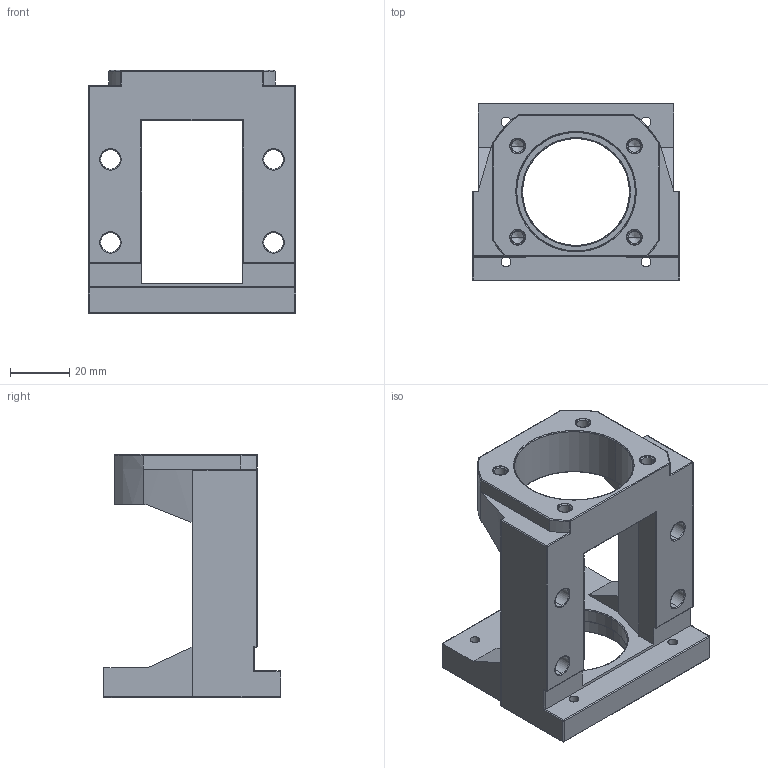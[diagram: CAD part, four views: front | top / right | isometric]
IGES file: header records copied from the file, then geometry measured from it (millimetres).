
Start section: SolidWorks IGES file using analytic representation for surfaces
Bounding box: 70 x 60 x 82 mm (x, y, z)
Surface area: 28742.8 mm2 (no closed solid volume)
Topology: 0 solids, 0 shells, 198 faces, 2292 edges, 2270 vertices
Faces by surface type: revolution 121, bspline 77
